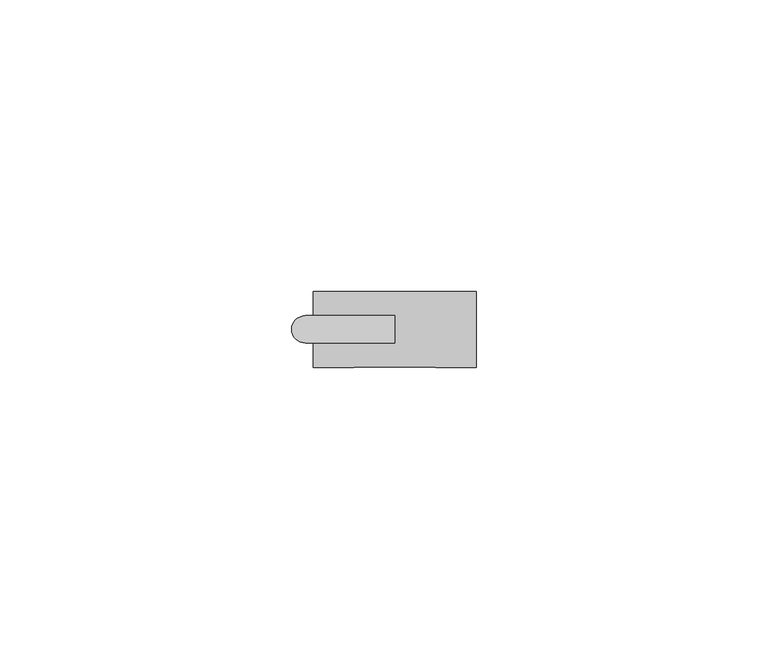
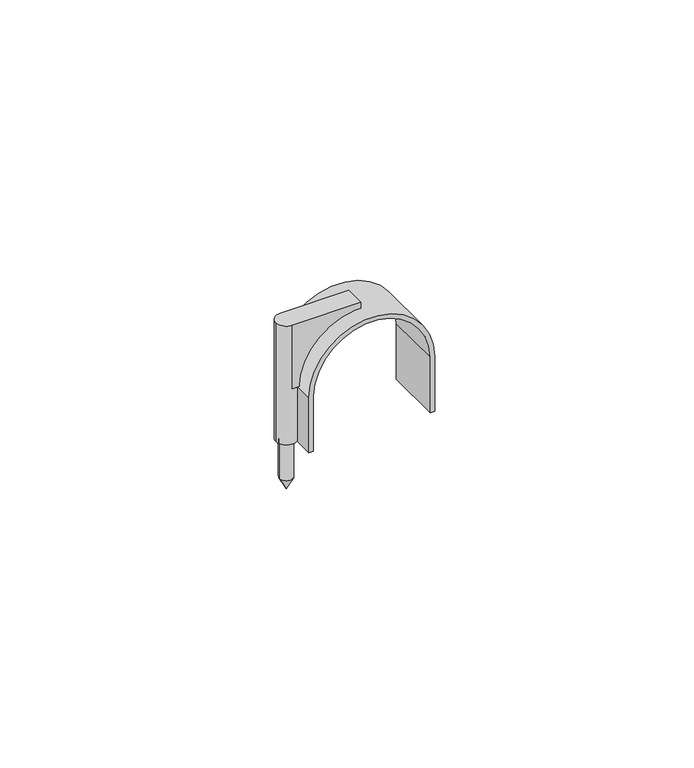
"""IFC4 building model written with IfcOpenShell, lengths in millimetres: cable carrier fitting geometry, КНС_СкобаПластиковаяСГвоздем_DKC : д.25 - 26мм."""

from ifc_helpers import new_model, si_unit, point, frame, frame_2d, origin, place, context, project, spatial, polyline, circle_curve, trimmed, segment, composite_curve, outline, extrude, source, transform, mapped, element, save
from ifc_brep_helpers import plane_surface, cylinder_surface, revolved_surface, advanced_brep


def cable_carrier_fitting_6c4db289(model_context):
    return source(origin(), model_context, "Body", "SolidModel", [
        advanced_brep(
        [(-13.8290355, 0.0, 0.0), (-16.8290355, 0.0, 0.0), (-15.3290355, 0.0, 0.0), (-13.8290355, 0.0, -9.0), (-16.8290355, 0.0, -9.0), (-15.3290355, 0.0, -12.0)],
        [
            (0, 1, circle_curve(frame((-15.3290355, 0.0, 0.0), z_axis=(0.0, 0.0, 1.0), x_axis=(-1.0, 0.0, 0.0)), 1.5)),
            (1, 2),
            (2, 0),
            (1, 0, circle_curve(frame((-15.3290355, 0.0, 0.0), z_axis=(0.0, 0.0, 1.0), x_axis=(-1.0, 0.0, 0.0)), 1.5)),
            (3, 4, circle_curve(frame((-15.3290355, 0.0, -9.0), z_axis=(0.0, 0.0, 1.0), x_axis=(-1.0, 0.0, 0.0)), 1.5)),
            (4, 1),
            (0, 3),
            (4, 3, circle_curve(frame((-15.3290355, 0.0, -9.0), z_axis=(0.0, 0.0, 1.0), x_axis=(-1.0, 0.0, 0.0)), 1.5)),
            (5, 4),
            (3, 5),
        ],
        [
            plane_surface(frame((-15.3290355, 0.0, 0.0), z_axis=(0.0, 0.0, 1.0), x_axis=(-1.0, 0.0, 0.0))),
            cylinder_surface(frame((-15.3290355, 0.0, 39.2919306), z_axis=(0.0, 0.0, -1.0), x_axis=(-1.0, 0.0, 0.0)), 1.5),
            revolved_surface(polyline([(-16.8290355, 0.0, -9.0), (-15.3290355, 0.0, -12.0)]), (-15.3290355, 0.0, 39.2919306), (0.0, 0.0, -1.0)),
        ],
        [
            (0, [[1, 2, 3]]),
            (0, [[4, -3, -2]]),
            (1, [[5, 6, -1, 7]]),
            (1, [[8, -7, -4, -6]]),
            (2, [[9, -5, 10]]),
            (2, [[-10, -8, -9]]),
        ],
    ),
        advanced_brep(
        [(-13.0, -2.3290355, 13.0), (0.0, -2.3290355, 26.0), (0.0, -2.3290355, 28.0), (-15.3290355, -2.3290355, 28.0), (-15.3290355, -2.3290355, 13.0), (-13.0, 2.3290355, 13.0), (-15.3290355, 2.3290355, 13.0), (-15.3290355, 2.3290355, 28.0), (0.0, 2.3290355, 28.0), (0.0, 2.3290355, 26.0), (-13.0, 0.0, 13.0), (-17.6580711, 0.0, 28.0), (-13.0, 0.0, 0.0), (-17.6580711, 0.0, 0.0), (-15.3290355, 0.0, 0.0)],
        [
            (0, 1, circle_curve(frame((0.0, -2.3290355, 13.0), z_axis=(0.0, 1.0, 0.0), x_axis=(1.0, 0.0, 0.0)), 13.0)),
            (1, 2),
            (2, 3),
            (3, 4),
            (4, 0),
            (5, 6),
            (6, 7),
            (7, 8),
            (8, 9),
            (9, 5, circle_curve(frame((0.0, 2.3290355, 13.0), z_axis=(0.0, -1.0, 0.0), x_axis=(1.0, 0.0, 0.0)), 13.0)),
            (0, 10),
            (10, 5),
            (9, 1),
            (8, 2),
            (7, 11, circle_curve(frame((-15.3290355, 0.0, 28.0), z_axis=(0.0, 0.0, 1.0), x_axis=(-1.0, 0.0, 0.0)), 2.3290355)),
            (11, 3, circle_curve(frame((-15.3290355, 0.0, 28.0), z_axis=(0.0, 0.0, 1.0), x_axis=(-1.0, 0.0, 0.0)), 2.3290355)),
            (4, 10, circle_curve(frame((-15.3290355, 0.0, 13.0), z_axis=(0.0, 0.0, 1.0), x_axis=(-1.0, 0.0, 0.0)), 2.3290355)),
            (10, 6, circle_curve(frame((-15.3290355, 0.0, 13.0), z_axis=(0.0, 0.0, 1.0), x_axis=(-1.0, 0.0, 0.0)), 2.3290355)),
            (12, 13, circle_curve(frame((-15.3290355, 0.0, 0.0), z_axis=(0.0, 0.0, 1.0), x_axis=(-1.0, 0.0, 0.0)), 2.3290355)),
            (13, 11),
            (10, 12),
            (13, 12, circle_curve(frame((-15.3290355, 0.0, 0.0), z_axis=(0.0, 0.0, 1.0), x_axis=(-1.0, 0.0, 0.0)), 2.3290355)),
            (12, 14),
            (14, 13),
        ],
        [
            plane_surface(frame((13.0, -2.3290355, 13.0), z_axis=(0.0, -1.0, 0.0), x_axis=(0.0, 0.0, -1.0))),
            plane_surface(frame((13.0, 2.3290355, 13.0), z_axis=(0.0, 1.0, 0.0), x_axis=(0.0, 0.0, 1.0))),
            revolved_surface(polyline([(13.0, 2.3290355, 13.0), (13.0, -2.3290355, 13.0)]), (0.0, 2.3290355, 13.0), (0.0, 1.0, 0.0)),
            plane_surface(frame((0.0, -2.3290355, 26.0), z_axis=(1.0, 0.0, 0.0), x_axis=(0.0, 1.0, 0.0))),
            plane_surface(frame((0.0, -2.3290355, 28.0), z_axis=(0.0, 0.0, 1.0), x_axis=(0.0, 1.0, 0.0))),
            plane_surface(frame((-15.3290355, -2.3290355, 13.0), z_axis=(0.0, 0.0, -1.0), x_axis=(0.0, 1.0, 0.0))),
            cylinder_surface(frame((-15.3290355, 0.0, 39.2919306), z_axis=(0.0, 0.0, -1.0), x_axis=(-1.0, 0.0, 0.0)), 2.3290355),
            plane_surface(frame((-15.3290355, 0.0, 0.0), z_axis=(0.0, 0.0, -1.0), x_axis=(-1.0, 0.0, 0.0))),
        ],
        [
            (0, [[1, 2, 3, 4, 5]]),
            (1, [[6, 7, 8, 9, 10]]),
            (2, [[-1, 11, 12, -10, 13]]),
            (3, [[-2, -13, -9, 14]]),
            (4, [[-3, -14, -8, 15, 16]]),
            (5, [[-5, 17, -11]]),
            (5, [[-6, -12, 18]]),
            (6, [[19, 20, -15, -7, -18, 21]]),
            (6, [[-20, 22, -21, -17, -4, -16]]),
            (7, [[-19, 23, 24]]),
            (7, [[-22, -24, -23]]),
        ],
    ),
        extrude(outline(composite_curve([segment(polyline([(13.0, 13.0), (0.0, 13.0), (0.0, 14.0), (13.0, 14.0)]), True, "CONTINUOUS"), segment(trimmed(circle_curve(frame_2d((13.0, 0.0)), 14.0), [point((13.0, 14.0))], [point((13.0, -14.0))], False, "CARTESIAN"), True, "CONTINUOUS"), segment(polyline([(13.0, -14.0), (0.0, -14.0), (0.0, -13.0), (13.0, -13.0)]), True, "CONTINUOUS"), segment(trimmed(circle_curve(frame_2d((13.0, 0.0)), 13.0), [point((13.0, -13.0))], [point((13.0, 13.0))], True, "CARTESIAN"), True, "CONTINUOUS")], self_intersect=False)), frame((0.0, -6.5, 0.0), z_axis=(0.0, 1.0, 0.0), x_axis=(0.0, 0.0, 1.0)), (0.0, 0.0, 1.0), 13.0),
    ])


if __name__ == "__main__":
    model = new_model("IFC4")
    model_context = context("Model", 3, world=origin())
    ifc_project = project(units=[si_unit("LENGTHUNIT", "METRE", prefix="MILLI")], contexts=[model_context])
    site = spatial("IfcSite", under=ifc_project)
    building = spatial("IfcBuilding", under=site)
    placement = place(None, origin())
    cable_carrier_fitting_shape = cable_carrier_fitting_6c4db289(model_context)
    element("IfcCableCarrierFitting", 1, ObjectType="КНС_СкобаПластиковаяСГвоздем_DKC : д.25 - 26мм", at=placement, inside=building, context=model_context, shape_type="MappedRepresentation", body=[
        mapped(cable_carrier_fitting_shape, transform((0.0, 0.0, 0.0), x_axis=(1.0, 0.0, 0.0), y_axis=(0.0, 1.0, 0.0), z_axis=(0.0, 0.0, 1.0))),
    ])
    save(model, "model.ifc")
